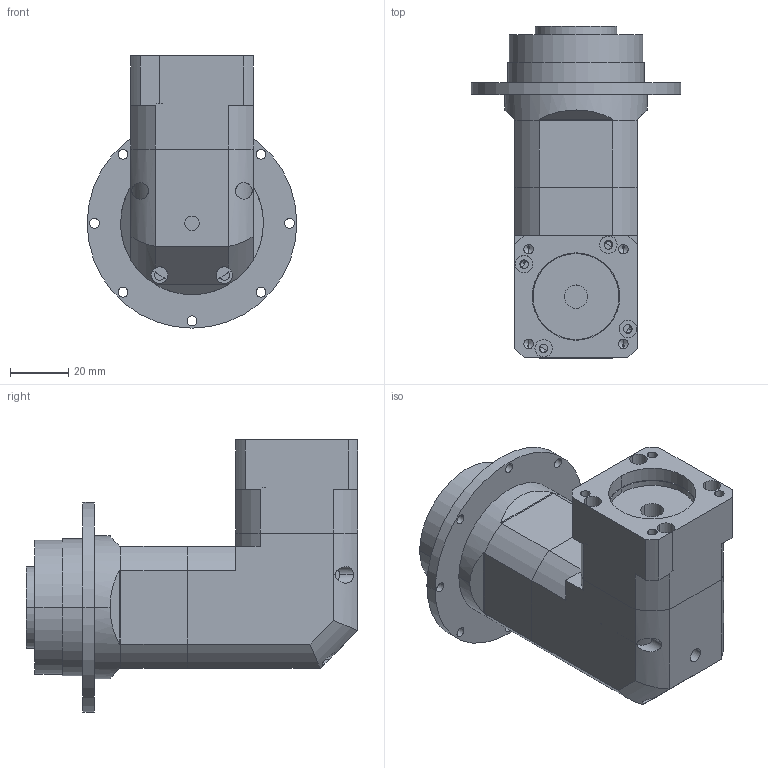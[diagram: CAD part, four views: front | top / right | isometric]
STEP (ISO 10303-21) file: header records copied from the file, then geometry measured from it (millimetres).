
FILE_DESCRIPTION (( 'STEP AP214' ), '1' );
FILE_NAME ('EVT047-L2 8-30-46-M4.STEP', '2023-03-21T06:52:44', ( 'Admin' ), ( '' ), 'SwSTEP 2.0', 'SolidWorks 2018', '' );
FILE_SCHEMA (( 'AUTOMOTIVE_DESIGN' ));
Length unit declared in the file: millimetre
Products named in the file (5): EVT047-L2 8-30-46-M4; EVT047-2; 眻褒褲极2022.3.27; PAB42-L3; EVT047-L1
Assembly tree (4 placements, depth 2):
  EVT047-L2 8-30-46-M4
    EVT047-2
    EVT047-L1
    眻褒褲极2022.3.27
    PAB42-L3
Bounding box: 72 x 114 x 93.5 mm (x, y, z)
Volume: 242755.6 mm3; surface area: 48105.1 mm2
Topology: 4 solids, 6 shells, 261 faces, 622 edges, 394 vertices
Faces by surface type: cylinder 166, plane 72, cone 23
Entity records: 8207 total; most frequent: CARTESIAN_POINT 1863, DIRECTION 1373, ORIENTED_EDGE 1198, EDGE_CURVE 599, AXIS2_PLACEMENT_3D 556, VERTEX_POINT 394, EDGE_LOOP 333, CIRCLE 288
